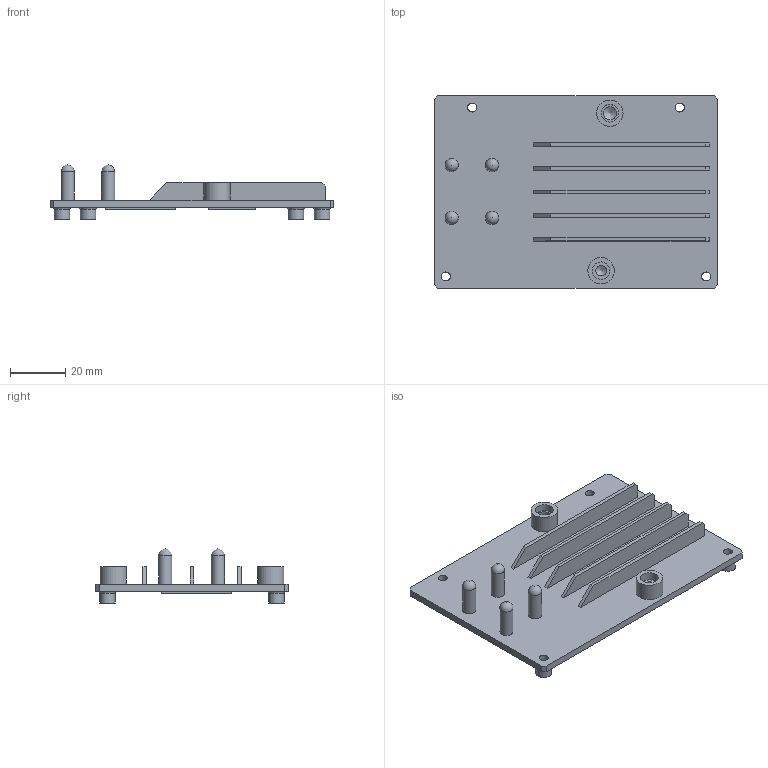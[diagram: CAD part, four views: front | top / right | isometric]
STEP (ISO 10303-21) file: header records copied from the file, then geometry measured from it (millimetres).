
FILE_DESCRIPTION(/* description */ (''),/* implementation_level */ '2;1');
FILE_NAME(/* name */ '827-9999-908.stp',/* time_stamp */ '2015-01-28T14:29:47-06:00',/* author */ (''),/* organization */ (''),/* preprocessor_version */ 'ST-DEVELOPER v15',/* originating_system */ 'SIEMENS PLM Software NX 8.5',/* authorisation */ '');
FILE_SCHEMA (('AP203_CONFIGURATION_CONTROLLED_3D_DESIGN_OF_MECHANICAL_PARTS_AND_ASSEMBLIES_MIM_LF { 1 0 10303 403 2 1 2}'));
Length unit declared in the file: inch
Products named in the file (1): tama2344DF8Bw5hc
Bounding box: 102.54 x 69.55 x 19.51 mm (x, y, z)
Volume: 22869.4 mm3; surface area: 20900.2 mm2
Topology: 1 solids, 1 shells, 89 faces, 211 edges, 139 vertices
Faces by surface type: plane 60, cylinder 19, torus 4, sphere 4, cone 2
Full cylindrical faces by diameter (mm): 3.251 x4, 3.81 x1, 4.762 x5, 5.588 x4, 6.35 x2, 9.525 x2
Entity records: 2426 total; most frequent: DIRECTION 394, CARTESIAN_POINT 392, ORIENTED_EDGE 344, EDGE_CURVE 172, EDGE_LOOP 140, AXIS2_PLACEMENT_3D 132, LINE 130, VECTOR 130
